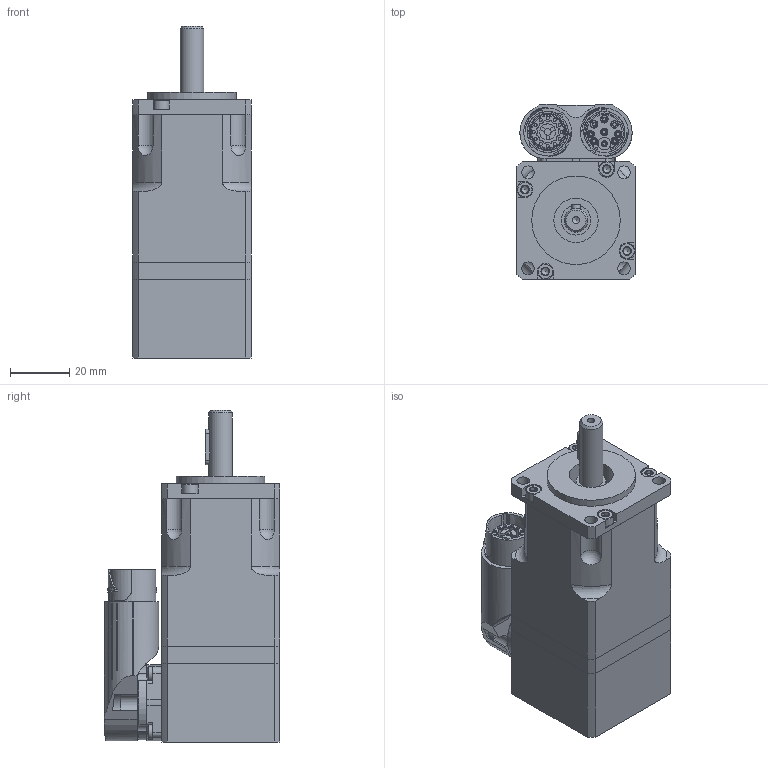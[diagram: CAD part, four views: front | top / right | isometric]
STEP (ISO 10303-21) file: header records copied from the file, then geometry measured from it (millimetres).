
FILE_DESCRIPTION(/* description */ (''),/* implementation_level */ '2;1');
FILE_NAME(/* name */ 'C:\Users\Public\Documents\Autodesk\Inventor LT 2014\Workspace\Motori Sito WEB\TG_0\STEP TG_0\DSM5_04_x09D.stp',/* time_stamp */ '2021-03-31T14:04:48+02:00',/* author */ ('marcor'),/* organization */ (''),/* preprocessor_version */ 'ST-DEVELOPER v15.2',/* originating_system */ 'Autodesk Inventor LT ',/* authorisation */ '');
FILE_SCHEMA (('AUTOMOTIVE_DESIGN { 1 0 10303 214 3 1 1 }'));
Length unit declared in the file: millimetre
Products named in the file (1): DSM5_04_x09D
Bounding box: 40 x 59.4 x 112.5 mm (x, y, z)
Volume: 94665.7 mm3; surface area: 38524.4 mm2
Topology: 15 solids, 16 shells, 880 faces, 2239 edges, 1468 vertices
Faces by surface type: plane 377, cylinder 321, cone 87, torus 74, sphere 21
Full cylindrical faces by diameter (mm): 1.075 x12, 1.15 x7, 1.7 x5, 2.05 x1, 2.224 x4, 2.3 x1, 2.45 x4, 2.459 x9, 2.5 x4, 2.55 x3, 2.7 x4, 2.88 x4, 3 x8, 3.2 x8, 4 x2, 4.3 x4, 5.3 x4, 5.45 x1, 5.5 x4, 6 x4, 7.5 x1, 8 x2, 10 x1, 11 x1, 11.75 x1, 11.8 x1, 12.25 x1, 12.75 x1, 13.92 x2, 15 x1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
Entity records: 27459 total; most frequent: CARTESIAN_POINT 6941, DIRECTION 4051, ORIENTED_EDGE 3870, EDGE_CURVE 1935, AXIS2_PLACEMENT_3D 1632, VERTEX_POINT 1381, EDGE_LOOP 1210, ADVANCED_FACE 879
